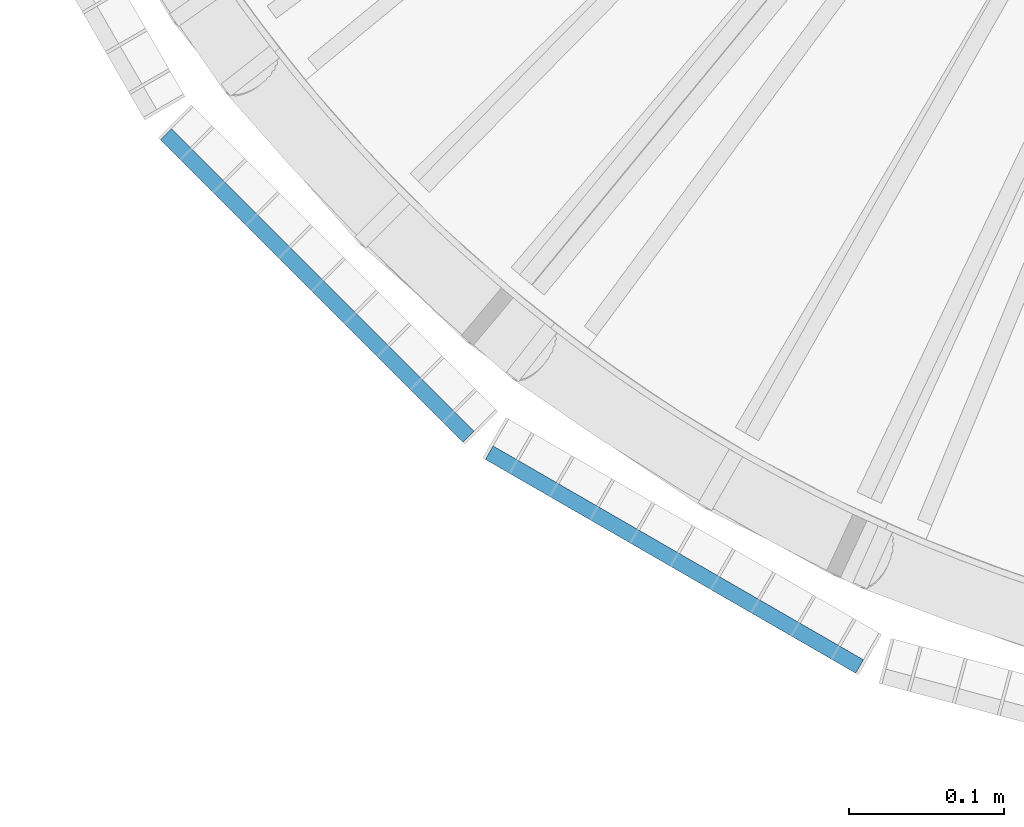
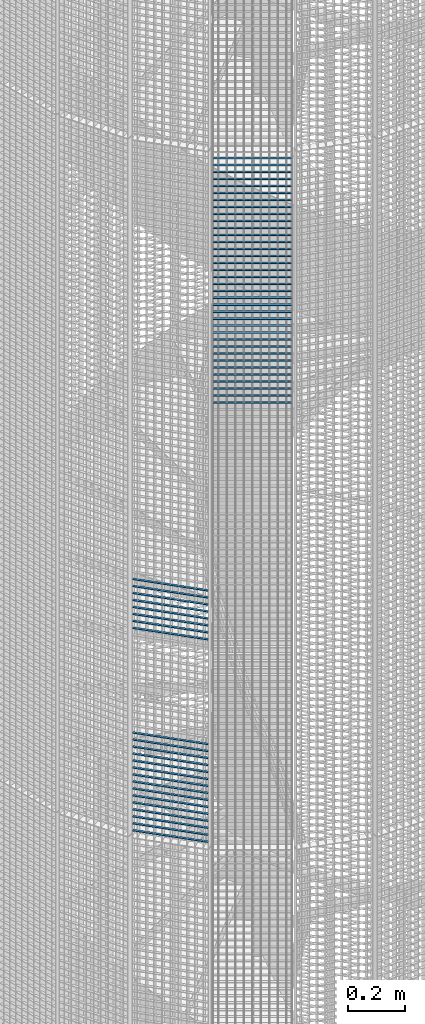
# One storey, part 375 of 1183: 59 beams, 2 elements without a shape of their own.
"""IFC2X3 building model written with IfcOpenShell, lengths in millimetres."""

from ifc_helpers import new_model, si_unit, frame, origin_with_axes, origin_2d_with_axis, place, context, subcontext, project, spatial, rectangle, extrude, material, type_object, element, aggregate, save


model = new_model("IFC2X3")

# Units and contexts
model_context = context("Model", 3, precision=1e-05, world=origin_with_axes())
body_context = subcontext(model_context, "Body", "Model", "MODEL_VIEW")
ifc_project = project(units=[si_unit("LENGTHUNIT", "METRE", prefix="MILLI"), si_unit("AREAUNIT", "SQUARE_METRE"), si_unit("VOLUMEUNIT", "CUBIC_METRE"), si_unit("MASSUNIT", "GRAM", prefix="KILO"), si_unit("TIMEUNIT", "SECOND"), si_unit("PLANEANGLEUNIT", "RADIAN"), si_unit("SOLIDANGLEUNIT", "STERADIAN"), si_unit("THERMODYNAMICTEMPERATUREUNIT", "DEGREE_CELSIUS"), si_unit("LUMINOUSINTENSITYUNIT", "LUMEN")], contexts=[model_context])

# Site, building, storey
site_placement = place(None, origin_with_axes())
site = spatial("IfcSite", under=ifc_project, at=site_placement, Name="Undefined", CompositionType="ELEMENT")
building_placement = place(site_placement, origin_with_axes())
building = spatial("IfcBuilding", under=site, at=building_placement, Name="Undefined", CompositionType="ELEMENT")
storey_placement = place(building_placement, origin_with_axes())
storey = spatial("IfcBuildingStorey", under=building, at=storey_placement, Name="Undefined", CompositionType="ELEMENT", Elevation=0.0)

# Assembly, beams
assembly_1_placement = place(storey_placement, origin_with_axes())
assembly_1 = element("IfcElementAssembly", 1, at=assembly_1_placement, inside=storey, Name="BORDURE", AssemblyPlace="NOTDEFINED", PredefinedType="NOTDEFINED")
ifc_material = material(Name="STEEL/S235JR")
beam_type = type_object("IfcBeamType", Name="PL2*10", PredefinedType="NOTDEFINED")
beam_1_placement = place(assembly_1_placement, frame((20910.2286510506, -884.927168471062, 3450.0), z_axis=(-0.70710678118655, -0.707106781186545, 0.0), x_axis=(-0.707106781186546, 0.707106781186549, 0.0)))
beam_1 = element("IfcBeam", 2, at=beam_1_placement, type_object=beam_type, material=ifc_material, Name="ENTRETOISE", context=body_context, shape_type="SweptSolid", body=[
    extrude(rectangle(XDim=2.0, YDim=10.0, at=origin_2d_with_axis()), frame((275.999999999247, 9.09494701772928e-13, 1.53210777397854e-14), z_axis=(-1.0, 0.0, 0.0), x_axis=(0.0, -1.0, 0.0)), (0.0, 0.0, 1.0), 276.0),
])
beam_2_placement = place(assembly_1_placement, frame((20910.2286510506, -884.927168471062, 3420.0), z_axis=(-0.70710678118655, -0.707106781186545, 0.0), x_axis=(-0.707106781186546, 0.707106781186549, 0.0)))
beam_2 = element("IfcBeam", 3, at=beam_2_placement, type_object=beam_type, material=ifc_material, Name="ENTRETOISE", context=body_context, shape_type="SweptSolid", body=[
    extrude(rectangle(XDim=2.0, YDim=10.0, at=origin_2d_with_axis()), frame((275.999999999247, 9.09494701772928e-13, 1.53210777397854e-14), z_axis=(-1.0, 0.0, 0.0), x_axis=(0.0, -1.0, 0.0)), (0.0, 0.0, 1.0), 276.0),
])
beam_3_placement = place(assembly_1_placement, frame((20910.2286510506, -884.927168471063, 3900.0), z_axis=(-0.70710678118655, -0.707106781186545, 0.0), x_axis=(-0.707106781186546, 0.707106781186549, 0.0)))
beam_3 = element("IfcBeam", 4, at=beam_3_placement, type_object=beam_type, material=ifc_material, Name="ENTRETOISE", context=body_context, shape_type="SweptSolid", body=[
    extrude(rectangle(XDim=2.0, YDim=10.0, at=origin_2d_with_axis()), frame((275.999999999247, 9.09494701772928e-13, 1.53210777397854e-14), z_axis=(-1.0, 0.0, 0.0), x_axis=(0.0, -1.0, 0.0)), (0.0, 0.0, 1.0), 276.0),
])
beam_4_placement = place(assembly_1_placement, frame((20910.2286510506, -884.927168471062, 3390.0), z_axis=(-0.70710678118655, -0.707106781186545, 0.0), x_axis=(-0.707106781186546, 0.707106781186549, 0.0)))
beam_4 = element("IfcBeam", 5, at=beam_4_placement, type_object=beam_type, material=ifc_material, Name="ENTRETOISE", context=body_context, shape_type="SweptSolid", body=[
    extrude(rectangle(XDim=2.0, YDim=10.0, at=origin_2d_with_axis()), frame((275.999999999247, 9.09494701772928e-13, 1.53210777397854e-14), z_axis=(-1.0, 0.0, 0.0), x_axis=(0.0, -1.0, 0.0)), (0.0, 0.0, 1.0), 276.0),
])
beam_5_placement = place(assembly_1_placement, frame((20910.2286510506, -884.927168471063, 3930.0), z_axis=(-0.70710678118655, -0.707106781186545, 0.0), x_axis=(-0.707106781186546, 0.707106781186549, 0.0)))
beam_5 = element("IfcBeam", 6, at=beam_5_placement, type_object=beam_type, material=ifc_material, Name="ENTRETOISE", context=body_context, shape_type="SweptSolid", body=[
    extrude(rectangle(XDim=2.0, YDim=10.0, at=origin_2d_with_axis()), frame((275.999999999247, 9.09494701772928e-13, 1.53210777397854e-14), z_axis=(-1.0, 0.0, 0.0), x_axis=(0.0, -1.0, 0.0)), (0.0, 0.0, 1.0), 276.0),
])
beam_6_placement = place(assembly_1_placement, frame((20910.2286510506, -884.927168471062, 3360.0), z_axis=(-0.70710678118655, -0.707106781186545, 0.0), x_axis=(-0.707106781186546, 0.707106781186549, 0.0)))
beam_6 = element("IfcBeam", 7, at=beam_6_placement, type_object=beam_type, material=ifc_material, Name="ENTRETOISE", context=body_context, shape_type="SweptSolid", body=[
    extrude(rectangle(XDim=2.0, YDim=10.0, at=origin_2d_with_axis()), frame((275.999999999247, 9.09494701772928e-13, 1.53210777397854e-14), z_axis=(-1.0, 0.0, 0.0), x_axis=(0.0, -1.0, 0.0)), (0.0, 0.0, 1.0), 276.0),
])
beam_7_placement = place(assembly_1_placement, frame((20910.2286510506, -884.927168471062, 3330.0), z_axis=(-0.70710678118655, -0.707106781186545, 0.0), x_axis=(-0.707106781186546, 0.707106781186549, 0.0)))
beam_7 = element("IfcBeam", 8, at=beam_7_placement, type_object=beam_type, material=ifc_material, Name="ENTRETOISE", context=body_context, shape_type="SweptSolid", body=[
    extrude(rectangle(XDim=2.0, YDim=10.0, at=origin_2d_with_axis()), frame((275.999999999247, 9.09494701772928e-13, 1.53210777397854e-14), z_axis=(-1.0, 0.0, 0.0), x_axis=(0.0, -1.0, 0.0)), (0.0, 0.0, 1.0), 276.0),
])
beam_8_placement = place(assembly_1_placement, frame((20910.2286510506, -884.927168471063, 3960.0), z_axis=(-0.70710678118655, -0.707106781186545, 0.0), x_axis=(-0.707106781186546, 0.707106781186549, 0.0)))
beam_8 = element("IfcBeam", 9, at=beam_8_placement, type_object=beam_type, material=ifc_material, Name="ENTRETOISE", context=body_context, shape_type="SweptSolid", body=[
    extrude(rectangle(XDim=2.0, YDim=10.0, at=origin_2d_with_axis()), frame((275.999999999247, 9.09494701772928e-13, 1.53210777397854e-14), z_axis=(-1.0, 0.0, 0.0), x_axis=(0.0, -1.0, 0.0)), (0.0, 0.0, 1.0), 276.0),
])
beam_9_placement = place(assembly_1_placement, frame((20910.2286510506, -884.927168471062, 3300.0), z_axis=(-0.70710678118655, -0.707106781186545, 0.0), x_axis=(-0.707106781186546, 0.707106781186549, 0.0)))
beam_9 = element("IfcBeam", 10, at=beam_9_placement, type_object=beam_type, material=ifc_material, Name="ENTRETOISE", context=body_context, shape_type="SweptSolid", body=[
    extrude(rectangle(XDim=2.0, YDim=10.0, at=origin_2d_with_axis()), frame((275.999999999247, 9.09494701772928e-13, 1.53210777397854e-14), z_axis=(-1.0, 0.0, 0.0), x_axis=(0.0, -1.0, 0.0)), (0.0, 0.0, 1.0), 276.0),
])
beam_10_placement = place(assembly_1_placement, frame((20910.2286510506, -884.927168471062, 3270.0), z_axis=(-0.70710678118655, -0.707106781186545, 0.0), x_axis=(-0.707106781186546, 0.707106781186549, 0.0)))
beam_10 = element("IfcBeam", 11, at=beam_10_placement, type_object=beam_type, material=ifc_material, Name="ENTRETOISE", context=body_context, shape_type="SweptSolid", body=[
    extrude(rectangle(XDim=2.0, YDim=10.0, at=origin_2d_with_axis()), frame((275.999999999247, 9.09494701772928e-13, 1.53210777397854e-14), z_axis=(-1.0, 0.0, 0.0), x_axis=(0.0, -1.0, 0.0)), (0.0, 0.0, 1.0), 276.0),
])
beam_11_placement = place(assembly_1_placement, frame((20910.2286510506, -884.927168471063, 3990.0), z_axis=(-0.70710678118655, -0.707106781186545, 0.0), x_axis=(-0.707106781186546, 0.707106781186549, 0.0)))
beam_11 = element("IfcBeam", 12, at=beam_11_placement, type_object=beam_type, material=ifc_material, Name="ENTRETOISE", context=body_context, shape_type="SweptSolid", body=[
    extrude(rectangle(XDim=2.0, YDim=10.0, at=origin_2d_with_axis()), frame((275.999999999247, 9.09494701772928e-13, 1.53210777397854e-14), z_axis=(-1.0, 0.0, 0.0), x_axis=(0.0, -1.0, 0.0)), (0.0, 0.0, 1.0), 276.0),
])
beam_12_placement = place(assembly_1_placement, frame((20910.2286510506, -884.927168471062, 3240.0), z_axis=(-0.70710678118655, -0.707106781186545, 0.0), x_axis=(-0.707106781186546, 0.707106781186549, 0.0)))
beam_12 = element("IfcBeam", 13, at=beam_12_placement, type_object=beam_type, material=ifc_material, Name="ENTRETOISE", context=body_context, shape_type="SweptSolid", body=[
    extrude(rectangle(XDim=2.0, YDim=10.0, at=origin_2d_with_axis()), frame((275.999999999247, 9.09494701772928e-13, 1.53210777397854e-14), z_axis=(-1.0, 0.0, 0.0), x_axis=(0.0, -1.0, 0.0)), (0.0, 0.0, 1.0), 276.0),
])
beam_13_placement = place(assembly_1_placement, frame((20910.2286510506, -884.927168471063, 4020.0), z_axis=(-0.70710678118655, -0.707106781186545, 0.0), x_axis=(-0.707106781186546, 0.707106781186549, 0.0)))
beam_13 = element("IfcBeam", 14, at=beam_13_placement, type_object=beam_type, material=ifc_material, Name="ENTRETOISE", context=body_context, shape_type="SweptSolid", body=[
    extrude(rectangle(XDim=2.0, YDim=10.0, at=origin_2d_with_axis()), frame((275.999999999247, 9.09494701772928e-13, 1.53210777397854e-14), z_axis=(-1.0, 0.0, 0.0), x_axis=(0.0, -1.0, 0.0)), (0.0, 0.0, 1.0), 276.0),
])
beam_14_placement = place(assembly_1_placement, frame((20910.2286510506, -884.927168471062, 3210.0), z_axis=(-0.70710678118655, -0.707106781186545, 0.0), x_axis=(-0.707106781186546, 0.707106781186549, 0.0)))
beam_14 = element("IfcBeam", 15, at=beam_14_placement, type_object=beam_type, material=ifc_material, Name="ENTRETOISE", context=body_context, shape_type="SweptSolid", body=[
    extrude(rectangle(XDim=2.0, YDim=10.0, at=origin_2d_with_axis()), frame((275.999999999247, 9.09494701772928e-13, 1.53210777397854e-14), z_axis=(-1.0, 0.0, 0.0), x_axis=(0.0, -1.0, 0.0)), (0.0, 0.0, 1.0), 276.0),
])
beam_15_placement = place(assembly_1_placement, frame((20910.2286510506, -884.927168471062, 3180.0), z_axis=(-0.70710678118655, -0.707106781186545, 0.0), x_axis=(-0.707106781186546, 0.707106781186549, 0.0)))
beam_15 = element("IfcBeam", 16, at=beam_15_placement, type_object=beam_type, material=ifc_material, Name="ENTRETOISE", context=body_context, shape_type="SweptSolid", body=[
    extrude(rectangle(XDim=2.0, YDim=10.0, at=origin_2d_with_axis()), frame((275.999999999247, 9.09494701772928e-13, 1.53210777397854e-14), z_axis=(-1.0, 0.0, 0.0), x_axis=(0.0, -1.0, 0.0)), (0.0, 0.0, 1.0), 276.0),
])
beam_16_placement = place(assembly_1_placement, frame((20910.2286510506, -884.927168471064, 4050.0), z_axis=(-0.70710678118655, -0.707106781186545, 0.0), x_axis=(-0.707106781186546, 0.707106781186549, 0.0)))
beam_16 = element("IfcBeam", 17, at=beam_16_placement, type_object=beam_type, material=ifc_material, Name="ENTRETOISE", context=body_context, shape_type="SweptSolid", body=[
    extrude(rectangle(XDim=2.0, YDim=10.0, at=origin_2d_with_axis()), frame((275.999999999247, 9.09494701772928e-13, 1.53210777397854e-14), z_axis=(-1.0, 0.0, 0.0), x_axis=(0.0, -1.0, 0.0)), (0.0, 0.0, 1.0), 276.0),
])
beam_17_placement = place(assembly_1_placement, frame((20910.2286510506, -884.927168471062, 3150.0), z_axis=(-0.70710678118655, -0.707106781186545, 0.0), x_axis=(-0.707106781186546, 0.707106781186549, 0.0)))
beam_17 = element("IfcBeam", 18, at=beam_17_placement, type_object=beam_type, material=ifc_material, Name="ENTRETOISE", context=body_context, shape_type="SweptSolid", body=[
    extrude(rectangle(XDim=2.0, YDim=10.0, at=origin_2d_with_axis()), frame((275.999999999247, 9.09494701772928e-13, 1.53210777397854e-14), z_axis=(-1.0, 0.0, 0.0), x_axis=(0.0, -1.0, 0.0)), (0.0, 0.0, 1.0), 276.0),
])
beam_18_placement = place(assembly_1_placement, frame((20910.2286510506, -884.927168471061, 3120.0), z_axis=(-0.70710678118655, -0.707106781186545, 0.0), x_axis=(-0.707106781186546, 0.707106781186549, 0.0)))
beam_18 = element("IfcBeam", 19, at=beam_18_placement, type_object=beam_type, material=ifc_material, Name="ENTRETOISE", context=body_context, shape_type="SweptSolid", body=[
    extrude(rectangle(XDim=2.0, YDim=10.0, at=origin_2d_with_axis()), frame((275.999999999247, 9.09494701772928e-13, 1.53210777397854e-14), z_axis=(-1.0, 0.0, 0.0), x_axis=(0.0, -1.0, 0.0)), (0.0, 0.0, 1.0), 276.0),
])
beam_19_placement = place(assembly_1_placement, frame((20910.2286510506, -884.927168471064, 4080.0), z_axis=(-0.70710678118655, -0.707106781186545, 0.0), x_axis=(-0.707106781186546, 0.707106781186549, 0.0)))
beam_19 = element("IfcBeam", 20, at=beam_19_placement, type_object=beam_type, material=ifc_material, Name="ENTRETOISE", context=body_context, shape_type="SweptSolid", body=[
    extrude(rectangle(XDim=2.0, YDim=10.0, at=origin_2d_with_axis()), frame((275.999999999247, 9.09494701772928e-13, 1.53210777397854e-14), z_axis=(-1.0, 0.0, 0.0), x_axis=(0.0, -1.0, 0.0)), (0.0, 0.0, 1.0), 276.0),
])
beam_20_placement = place(assembly_1_placement, frame((20910.2286510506, -884.927168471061, 3090.0), z_axis=(-0.70710678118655, -0.707106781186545, 0.0), x_axis=(-0.707106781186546, 0.707106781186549, 0.0)))
beam_20 = element("IfcBeam", 21, at=beam_20_placement, type_object=beam_type, material=ifc_material, Name="ENTRETOISE", context=body_context, shape_type="SweptSolid", body=[
    extrude(rectangle(XDim=2.0, YDim=10.0, at=origin_2d_with_axis()), frame((275.999999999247, 9.09494701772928e-13, 1.53210777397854e-14), z_axis=(-1.0, 0.0, 0.0), x_axis=(0.0, -1.0, 0.0)), (0.0, 0.0, 1.0), 276.0),
])
beam_21_placement = place(assembly_1_placement, frame((20910.2286510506, -884.927168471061, 3060.0), z_axis=(-0.70710678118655, -0.707106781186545, 0.0), x_axis=(-0.707106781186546, 0.707106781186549, 0.0)))
beam_21 = element("IfcBeam", 22, at=beam_21_placement, type_object=beam_type, material=ifc_material, Name="ENTRETOISE", context=body_context, shape_type="SweptSolid", body=[
    extrude(rectangle(XDim=2.0, YDim=10.0, at=origin_2d_with_axis()), frame((275.999999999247, 9.09494701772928e-13, 1.53210777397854e-14), z_axis=(-1.0, 0.0, 0.0), x_axis=(0.0, -1.0, 0.0)), (0.0, 0.0, 1.0), 276.0),
])
beam_22_placement = place(assembly_1_placement, frame((20910.2286510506, -884.927168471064, 4110.0), z_axis=(-0.70710678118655, -0.707106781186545, 0.0), x_axis=(-0.707106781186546, 0.707106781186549, 0.0)))
beam_22 = element("IfcBeam", 23, at=beam_22_placement, type_object=beam_type, material=ifc_material, Name="ENTRETOISE", context=body_context, shape_type="SweptSolid", body=[
    extrude(rectangle(XDim=2.0, YDim=10.0, at=origin_2d_with_axis()), frame((275.999999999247, 9.09494701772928e-13, 1.53210777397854e-14), z_axis=(-1.0, 0.0, 0.0), x_axis=(0.0, -1.0, 0.0)), (0.0, 0.0, 1.0), 276.0),
])
beam_23_placement = place(assembly_1_placement, frame((20910.2286510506, -884.92716847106, 3030.0), z_axis=(-0.70710678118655, -0.707106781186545, 0.0), x_axis=(-0.707106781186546, 0.707106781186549, 0.0)))
beam_23 = element("IfcBeam", 24, at=beam_23_placement, type_object=beam_type, material=ifc_material, Name="ENTRETOISE", context=body_context, shape_type="SweptSolid", body=[
    extrude(rectangle(XDim=2.0, YDim=10.0, at=origin_2d_with_axis()), frame((275.999999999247, 9.09494701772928e-13, 1.53210777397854e-14), z_axis=(-1.0, 0.0, 0.0), x_axis=(0.0, -1.0, 0.0)), (0.0, 0.0, 1.0), 276.0),
])
aggregate(assembly_1, [beam_1, beam_2, beam_3, beam_4, beam_5, beam_6, beam_7, beam_8, beam_9, beam_10, beam_11, beam_12, beam_13, beam_14, beam_15, beam_16, beam_17, beam_18, beam_19, beam_20, beam_21, beam_22, beam_23])

assembly_2_placement = place(storey_placement, origin_with_axes())
assembly_2 = element("IfcElementAssembly", 25, at=assembly_2_placement, inside=storey, Name="BORDURE", AssemblyPlace="NOTDEFINED", PredefinedType="NOTDEFINED")
beam_24_placement = place(assembly_2_placement, frame((21162.7680445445, -1033.29996828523, 5970.0), z_axis=(-0.49999999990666, -0.866025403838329, 0.0), x_axis=(-0.866025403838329, 0.499999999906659, 0.0)))
beam_24 = element("IfcBeam", 26, at=beam_24_placement, type_object=beam_type, material=ifc_material, Name="ENTRETOISE", context=body_context, shape_type="SweptSolid", body=[
    extrude(rectangle(XDim=2.0, YDim=10.0, at=origin_2d_with_axis()), frame((275.999999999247, 9.09494701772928e-13, 1.53210777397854e-14), z_axis=(-1.0, 0.0, 0.0), x_axis=(0.0, -1.0, 0.0)), (0.0, 0.0, 1.0), 276.0),
])
beam_25_placement = place(assembly_2_placement, frame((21162.7680445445, -1033.29996828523, 5940.0), z_axis=(-0.49999999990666, -0.866025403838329, 0.0), x_axis=(-0.866025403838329, 0.499999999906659, 0.0)))
beam_25 = element("IfcBeam", 27, at=beam_25_placement, type_object=beam_type, material=ifc_material, Name="ENTRETOISE", context=body_context, shape_type="SweptSolid", body=[
    extrude(rectangle(XDim=2.0, YDim=10.0, at=origin_2d_with_axis()), frame((275.999999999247, 9.09494701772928e-13, 1.53210777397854e-14), z_axis=(-1.0, 0.0, 0.0), x_axis=(0.0, -1.0, 0.0)), (0.0, 0.0, 1.0), 276.0),
])
beam_26_placement = place(assembly_2_placement, frame((21162.7680445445, -1033.29996828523, 5910.0), z_axis=(-0.49999999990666, -0.866025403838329, 0.0), x_axis=(-0.866025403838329, 0.499999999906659, 0.0)))
beam_26 = element("IfcBeam", 28, at=beam_26_placement, type_object=beam_type, material=ifc_material, Name="ENTRETOISE", context=body_context, shape_type="SweptSolid", body=[
    extrude(rectangle(XDim=2.0, YDim=10.0, at=origin_2d_with_axis()), frame((275.999999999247, 9.09494701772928e-13, 1.53210777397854e-14), z_axis=(-1.0, 0.0, 0.0), x_axis=(0.0, -1.0, 0.0)), (0.0, 0.0, 1.0), 276.0),
])
beam_27_placement = place(assembly_2_placement, frame((21162.7680445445, -1033.29996828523, 5880.0), z_axis=(-0.49999999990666, -0.866025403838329, 0.0), x_axis=(-0.866025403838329, 0.499999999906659, 0.0)))
beam_27 = element("IfcBeam", 29, at=beam_27_placement, type_object=beam_type, material=ifc_material, Name="ENTRETOISE", context=body_context, shape_type="SweptSolid", body=[
    extrude(rectangle(XDim=2.0, YDim=10.0, at=origin_2d_with_axis()), frame((275.999999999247, 9.09494701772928e-13, 1.53210777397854e-14), z_axis=(-1.0, 0.0, 0.0), x_axis=(0.0, -1.0, 0.0)), (0.0, 0.0, 1.0), 276.0),
])
beam_28_placement = place(assembly_2_placement, frame((21162.7680445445, -1033.29996828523, 5850.0), z_axis=(-0.49999999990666, -0.866025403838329, 0.0), x_axis=(-0.866025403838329, 0.499999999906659, 0.0)))
beam_28 = element("IfcBeam", 30, at=beam_28_placement, type_object=beam_type, material=ifc_material, Name="ENTRETOISE", context=body_context, shape_type="SweptSolid", body=[
    extrude(rectangle(XDim=2.0, YDim=10.0, at=origin_2d_with_axis()), frame((275.999999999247, 9.09494701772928e-13, 1.53210777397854e-14), z_axis=(-1.0, 0.0, 0.0), x_axis=(0.0, -1.0, 0.0)), (0.0, 0.0, 1.0), 276.0),
])
beam_29_placement = place(assembly_2_placement, frame((21162.7680445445, -1033.29996828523, 5820.0), z_axis=(-0.49999999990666, -0.866025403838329, 0.0), x_axis=(-0.866025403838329, 0.499999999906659, 0.0)))
beam_29 = element("IfcBeam", 31, at=beam_29_placement, type_object=beam_type, material=ifc_material, Name="ENTRETOISE", context=body_context, shape_type="SweptSolid", body=[
    extrude(rectangle(XDim=2.0, YDim=10.0, at=origin_2d_with_axis()), frame((275.999999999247, 9.09494701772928e-13, 1.53210777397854e-14), z_axis=(-1.0, 0.0, 0.0), x_axis=(0.0, -1.0, 0.0)), (0.0, 0.0, 1.0), 276.0),
])
beam_30_placement = place(assembly_2_placement, frame((21162.7680445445, -1033.29996828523, 5790.0), z_axis=(-0.49999999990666, -0.866025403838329, 0.0), x_axis=(-0.866025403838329, 0.499999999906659, 0.0)))
beam_30 = element("IfcBeam", 32, at=beam_30_placement, type_object=beam_type, material=ifc_material, Name="ENTRETOISE", context=body_context, shape_type="SweptSolid", body=[
    extrude(rectangle(XDim=2.0, YDim=10.0, at=origin_2d_with_axis()), frame((275.999999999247, 9.09494701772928e-13, 1.53210777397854e-14), z_axis=(-1.0, 0.0, 0.0), x_axis=(0.0, -1.0, 0.0)), (0.0, 0.0, 1.0), 276.0),
])
beam_31_placement = place(assembly_2_placement, frame((21162.7680445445, -1033.29996828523, 5760.0), z_axis=(-0.49999999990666, -0.866025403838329, 0.0), x_axis=(-0.866025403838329, 0.499999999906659, 0.0)))
beam_31 = element("IfcBeam", 33, at=beam_31_placement, type_object=beam_type, material=ifc_material, Name="ENTRETOISE", context=body_context, shape_type="SweptSolid", body=[
    extrude(rectangle(XDim=2.0, YDim=10.0, at=origin_2d_with_axis()), frame((275.999999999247, 9.09494701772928e-13, 1.53210777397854e-14), z_axis=(-1.0, 0.0, 0.0), x_axis=(0.0, -1.0, 0.0)), (0.0, 0.0, 1.0), 276.0),
])
beam_32_placement = place(assembly_2_placement, frame((21162.7680445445, -1033.29996828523, 5730.0), z_axis=(-0.49999999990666, -0.866025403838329, 0.0), x_axis=(-0.866025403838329, 0.499999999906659, 0.0)))
beam_32 = element("IfcBeam", 34, at=beam_32_placement, type_object=beam_type, material=ifc_material, Name="ENTRETOISE", context=body_context, shape_type="SweptSolid", body=[
    extrude(rectangle(XDim=2.0, YDim=10.0, at=origin_2d_with_axis()), frame((275.999999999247, 9.09494701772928e-13, 1.53210777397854e-14), z_axis=(-1.0, 0.0, 0.0), x_axis=(0.0, -1.0, 0.0)), (0.0, 0.0, 1.0), 276.0),
])
beam_33_placement = place(assembly_2_placement, frame((21162.7680445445, -1033.29996828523, 5700.0), z_axis=(-0.49999999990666, -0.866025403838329, 0.0), x_axis=(-0.866025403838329, 0.499999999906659, 0.0)))
beam_33 = element("IfcBeam", 35, at=beam_33_placement, type_object=beam_type, material=ifc_material, Name="ENTRETOISE", context=body_context, shape_type="SweptSolid", body=[
    extrude(rectangle(XDim=2.0, YDim=10.0, at=origin_2d_with_axis()), frame((275.999999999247, 9.09494701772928e-13, 1.53210777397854e-14), z_axis=(-1.0, 0.0, 0.0), x_axis=(0.0, -1.0, 0.0)), (0.0, 0.0, 1.0), 276.0),
])
beam_34_placement = place(assembly_2_placement, frame((21162.7680445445, -1033.29996828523, 5670.0), z_axis=(-0.49999999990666, -0.866025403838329, 0.0), x_axis=(-0.866025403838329, 0.499999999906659, 0.0)))
beam_34 = element("IfcBeam", 36, at=beam_34_placement, type_object=beam_type, material=ifc_material, Name="ENTRETOISE", context=body_context, shape_type="SweptSolid", body=[
    extrude(rectangle(XDim=2.0, YDim=10.0, at=origin_2d_with_axis()), frame((275.999999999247, 9.09494701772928e-13, 1.53210777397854e-14), z_axis=(-1.0, 0.0, 0.0), x_axis=(0.0, -1.0, 0.0)), (0.0, 0.0, 1.0), 276.0),
])
beam_35_placement = place(assembly_2_placement, frame((21162.7680445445, -1033.29996828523, 5640.0), z_axis=(-0.49999999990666, -0.866025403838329, 0.0), x_axis=(-0.866025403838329, 0.499999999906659, 0.0)))
beam_35 = element("IfcBeam", 37, at=beam_35_placement, type_object=beam_type, material=ifc_material, Name="ENTRETOISE", context=body_context, shape_type="SweptSolid", body=[
    extrude(rectangle(XDim=2.0, YDim=10.0, at=origin_2d_with_axis()), frame((275.999999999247, 9.09494701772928e-13, 1.53210777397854e-14), z_axis=(-1.0, 0.0, 0.0), x_axis=(0.0, -1.0, 0.0)), (0.0, 0.0, 1.0), 276.0),
])
beam_36_placement = place(assembly_2_placement, frame((21162.7680445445, -1033.29996828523, 5610.0), z_axis=(-0.49999999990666, -0.866025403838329, 0.0), x_axis=(-0.866025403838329, 0.499999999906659, 0.0)))
beam_36 = element("IfcBeam", 38, at=beam_36_placement, type_object=beam_type, material=ifc_material, Name="ENTRETOISE", context=body_context, shape_type="SweptSolid", body=[
    extrude(rectangle(XDim=2.0, YDim=10.0, at=origin_2d_with_axis()), frame((275.999999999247, 9.09494701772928e-13, 1.53210777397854e-14), z_axis=(-1.0, 0.0, 0.0), x_axis=(0.0, -1.0, 0.0)), (0.0, 0.0, 1.0), 276.0),
])
beam_37_placement = place(assembly_2_placement, frame((21162.7680445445, -1033.29996828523, 5580.0), z_axis=(-0.49999999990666, -0.866025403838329, 0.0), x_axis=(-0.866025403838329, 0.499999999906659, 0.0)))
beam_37 = element("IfcBeam", 39, at=beam_37_placement, type_object=beam_type, material=ifc_material, Name="ENTRETOISE", context=body_context, shape_type="SweptSolid", body=[
    extrude(rectangle(XDim=2.0, YDim=10.0, at=origin_2d_with_axis()), frame((275.999999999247, 9.09494701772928e-13, 1.53210777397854e-14), z_axis=(-1.0, 0.0, 0.0), x_axis=(0.0, -1.0, 0.0)), (0.0, 0.0, 1.0), 276.0),
])
beam_38_placement = place(assembly_2_placement, frame((21162.7680445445, -1033.29996828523, 5550.0), z_axis=(-0.49999999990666, -0.866025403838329, 0.0), x_axis=(-0.866025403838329, 0.499999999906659, 0.0)))
beam_38 = element("IfcBeam", 40, at=beam_38_placement, type_object=beam_type, material=ifc_material, Name="ENTRETOISE", context=body_context, shape_type="SweptSolid", body=[
    extrude(rectangle(XDim=2.0, YDim=10.0, at=origin_2d_with_axis()), frame((275.999999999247, 9.09494701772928e-13, 1.53210777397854e-14), z_axis=(-1.0, 0.0, 0.0), x_axis=(0.0, -1.0, 0.0)), (0.0, 0.0, 1.0), 276.0),
])
beam_39_placement = place(assembly_2_placement, frame((21162.7680445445, -1033.29996828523, 5520.0), z_axis=(-0.49999999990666, -0.866025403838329, 0.0), x_axis=(-0.866025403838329, 0.499999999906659, 0.0)))
beam_39 = element("IfcBeam", 41, at=beam_39_placement, type_object=beam_type, material=ifc_material, Name="ENTRETOISE", context=body_context, shape_type="SweptSolid", body=[
    extrude(rectangle(XDim=2.0, YDim=10.0, at=origin_2d_with_axis()), frame((275.999999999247, 9.09494701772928e-13, 1.53210777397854e-14), z_axis=(-1.0, 0.0, 0.0), x_axis=(0.0, -1.0, 0.0)), (0.0, 0.0, 1.0), 276.0),
])
beam_40_placement = place(assembly_2_placement, frame((21162.7680445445, -1033.29996828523, 5490.0), z_axis=(-0.49999999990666, -0.866025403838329, 0.0), x_axis=(-0.866025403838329, 0.499999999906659, 0.0)))
beam_40 = element("IfcBeam", 42, at=beam_40_placement, type_object=beam_type, material=ifc_material, Name="ENTRETOISE", context=body_context, shape_type="SweptSolid", body=[
    extrude(rectangle(XDim=2.0, YDim=10.0, at=origin_2d_with_axis()), frame((275.999999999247, 9.09494701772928e-13, 1.53210777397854e-14), z_axis=(-1.0, 0.0, 0.0), x_axis=(0.0, -1.0, 0.0)), (0.0, 0.0, 1.0), 276.0),
])
beam_41_placement = place(assembly_2_placement, frame((21162.7680445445, -1033.29996828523, 5460.0), z_axis=(-0.49999999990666, -0.866025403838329, 0.0), x_axis=(-0.866025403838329, 0.499999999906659, 0.0)))
beam_41 = element("IfcBeam", 43, at=beam_41_placement, type_object=beam_type, material=ifc_material, Name="ENTRETOISE", context=body_context, shape_type="SweptSolid", body=[
    extrude(rectangle(XDim=2.0, YDim=10.0, at=origin_2d_with_axis()), frame((275.999999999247, 9.09494701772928e-13, 1.53210777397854e-14), z_axis=(-1.0, 0.0, 0.0), x_axis=(0.0, -1.0, 0.0)), (0.0, 0.0, 1.0), 276.0),
])
beam_42_placement = place(assembly_2_placement, frame((21162.7680445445, -1033.29996828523, 5430.0), z_axis=(-0.49999999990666, -0.866025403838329, 0.0), x_axis=(-0.866025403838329, 0.499999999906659, 0.0)))
beam_42 = element("IfcBeam", 44, at=beam_42_placement, type_object=beam_type, material=ifc_material, Name="ENTRETOISE", context=body_context, shape_type="SweptSolid", body=[
    extrude(rectangle(XDim=2.0, YDim=10.0, at=origin_2d_with_axis()), frame((275.999999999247, 9.09494701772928e-13, 1.53210777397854e-14), z_axis=(-1.0, 0.0, 0.0), x_axis=(0.0, -1.0, 0.0)), (0.0, 0.0, 1.0), 276.0),
])
beam_43_placement = place(assembly_2_placement, frame((21162.7680445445, -1033.29996828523, 5400.0), z_axis=(-0.49999999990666, -0.866025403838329, 0.0), x_axis=(-0.866025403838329, 0.499999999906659, 0.0)))
beam_43 = element("IfcBeam", 45, at=beam_43_placement, type_object=beam_type, material=ifc_material, Name="ENTRETOISE", context=body_context, shape_type="SweptSolid", body=[
    extrude(rectangle(XDim=2.0, YDim=10.0, at=origin_2d_with_axis()), frame((275.999999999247, 9.09494701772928e-13, 1.53210777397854e-14), z_axis=(-1.0, 0.0, 0.0), x_axis=(0.0, -1.0, 0.0)), (0.0, 0.0, 1.0), 276.0),
])
beam_44_placement = place(assembly_2_placement, frame((21162.7680445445, -1033.29996828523, 5370.0), z_axis=(-0.49999999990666, -0.866025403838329, 0.0), x_axis=(-0.866025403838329, 0.499999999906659, 0.0)))
beam_44 = element("IfcBeam", 46, at=beam_44_placement, type_object=beam_type, material=ifc_material, Name="ENTRETOISE", context=body_context, shape_type="SweptSolid", body=[
    extrude(rectangle(XDim=2.0, YDim=10.0, at=origin_2d_with_axis()), frame((275.999999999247, 9.09494701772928e-13, 1.53210777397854e-14), z_axis=(-1.0, 0.0, 0.0), x_axis=(0.0, -1.0, 0.0)), (0.0, 0.0, 1.0), 276.0),
])
beam_45_placement = place(assembly_2_placement, frame((21162.7680445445, -1033.29996828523, 5340.0), z_axis=(-0.49999999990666, -0.866025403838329, 0.0), x_axis=(-0.866025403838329, 0.499999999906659, 0.0)))
beam_45 = element("IfcBeam", 47, at=beam_45_placement, type_object=beam_type, material=ifc_material, Name="ENTRETOISE", context=body_context, shape_type="SweptSolid", body=[
    extrude(rectangle(XDim=2.0, YDim=10.0, at=origin_2d_with_axis()), frame((275.999999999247, 9.09494701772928e-13, 1.53210777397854e-14), z_axis=(-1.0, 0.0, 0.0), x_axis=(0.0, -1.0, 0.0)), (0.0, 0.0, 1.0), 276.0),
])
beam_46_placement = place(assembly_2_placement, frame((21162.7680445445, -1033.29996828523, 5310.0), z_axis=(-0.49999999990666, -0.866025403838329, 0.0), x_axis=(-0.866025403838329, 0.499999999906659, 0.0)))
beam_46 = element("IfcBeam", 48, at=beam_46_placement, type_object=beam_type, material=ifc_material, Name="ENTRETOISE", context=body_context, shape_type="SweptSolid", body=[
    extrude(rectangle(XDim=2.0, YDim=10.0, at=origin_2d_with_axis()), frame((275.999999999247, 9.09494701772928e-13, 1.53210777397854e-14), z_axis=(-1.0, 0.0, 0.0), x_axis=(0.0, -1.0, 0.0)), (0.0, 0.0, 1.0), 276.0),
])
beam_47_placement = place(assembly_2_placement, frame((21162.7680445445, -1033.29996828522, 5280.0), z_axis=(-0.49999999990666, -0.866025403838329, 0.0), x_axis=(-0.866025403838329, 0.499999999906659, 0.0)))
beam_47 = element("IfcBeam", 49, at=beam_47_placement, type_object=beam_type, material=ifc_material, Name="ENTRETOISE", context=body_context, shape_type="SweptSolid", body=[
    extrude(rectangle(XDim=2.0, YDim=10.0, at=origin_2d_with_axis()), frame((275.999999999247, 9.09494701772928e-13, 1.53210777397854e-14), z_axis=(-1.0, 0.0, 0.0), x_axis=(0.0, -1.0, 0.0)), (0.0, 0.0, 1.0), 276.0),
])
beam_48_placement = place(assembly_2_placement, frame((21162.7680445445, -1033.29996828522, 5250.0), z_axis=(-0.49999999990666, -0.866025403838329, 0.0), x_axis=(-0.866025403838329, 0.499999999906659, 0.0)))
beam_48 = element("IfcBeam", 50, at=beam_48_placement, type_object=beam_type, material=ifc_material, Name="ENTRETOISE", context=body_context, shape_type="SweptSolid", body=[
    extrude(rectangle(XDim=2.0, YDim=10.0, at=origin_2d_with_axis()), frame((275.999999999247, 9.09494701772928e-13, 1.53210777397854e-14), z_axis=(-1.0, 0.0, 0.0), x_axis=(0.0, -1.0, 0.0)), (0.0, 0.0, 1.0), 276.0),
])
beam_49_placement = place(assembly_2_placement, frame((21162.7680445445, -1033.29996828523, 5220.0), z_axis=(-0.49999999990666, -0.866025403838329, 0.0), x_axis=(-0.866025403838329, 0.499999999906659, 0.0)))
beam_49 = element("IfcBeam", 51, at=beam_49_placement, type_object=beam_type, material=ifc_material, Name="ENTRETOISE", context=body_context, shape_type="SweptSolid", body=[
    extrude(rectangle(XDim=2.0, YDim=10.0, at=origin_2d_with_axis()), frame((275.999999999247, 9.09494701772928e-13, 1.53210777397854e-14), z_axis=(-1.0, 0.0, 0.0), x_axis=(0.0, -1.0, 0.0)), (0.0, 0.0, 1.0), 276.0),
])
beam_50_placement = place(assembly_2_placement, frame((21162.7680445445, -1033.29996828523, 5190.0), z_axis=(-0.49999999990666, -0.866025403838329, 0.0), x_axis=(-0.866025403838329, 0.499999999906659, 0.0)))
beam_50 = element("IfcBeam", 52, at=beam_50_placement, type_object=beam_type, material=ifc_material, Name="ENTRETOISE", context=body_context, shape_type="SweptSolid", body=[
    extrude(rectangle(XDim=2.0, YDim=10.0, at=origin_2d_with_axis()), frame((275.999999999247, 9.09494701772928e-13, 1.53210777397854e-14), z_axis=(-1.0, 0.0, 0.0), x_axis=(0.0, -1.0, 0.0)), (0.0, 0.0, 1.0), 276.0),
])
beam_51_placement = place(assembly_2_placement, frame((21162.7680445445, -1033.29996828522, 5160.0), z_axis=(-0.49999999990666, -0.866025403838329, 0.0), x_axis=(-0.866025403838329, 0.499999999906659, 0.0)))
beam_51 = element("IfcBeam", 53, at=beam_51_placement, type_object=beam_type, material=ifc_material, Name="ENTRETOISE", context=body_context, shape_type="SweptSolid", body=[
    extrude(rectangle(XDim=2.0, YDim=10.0, at=origin_2d_with_axis()), frame((275.999999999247, 9.09494701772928e-13, 1.53210777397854e-14), z_axis=(-1.0, 0.0, 0.0), x_axis=(0.0, -1.0, 0.0)), (0.0, 0.0, 1.0), 276.0),
])
beam_52_placement = place(assembly_2_placement, frame((21162.7680445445, -1033.29996828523, 5130.0), z_axis=(-0.49999999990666, -0.866025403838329, 0.0), x_axis=(-0.866025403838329, 0.499999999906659, 0.0)))
beam_52 = element("IfcBeam", 54, at=beam_52_placement, type_object=beam_type, material=ifc_material, Name="ENTRETOISE", context=body_context, shape_type="SweptSolid", body=[
    extrude(rectangle(XDim=2.0, YDim=10.0, at=origin_2d_with_axis()), frame((275.999999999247, 9.09494701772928e-13, 1.53210777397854e-14), z_axis=(-1.0, 0.0, 0.0), x_axis=(0.0, -1.0, 0.0)), (0.0, 0.0, 1.0), 276.0),
])
beam_53_placement = place(assembly_2_placement, frame((21162.7680445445, -1033.29996828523, 5100.0), z_axis=(-0.49999999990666, -0.866025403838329, 0.0), x_axis=(-0.866025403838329, 0.499999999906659, 0.0)))
beam_53 = element("IfcBeam", 55, at=beam_53_placement, type_object=beam_type, material=ifc_material, Name="ENTRETOISE", context=body_context, shape_type="SweptSolid", body=[
    extrude(rectangle(XDim=2.0, YDim=10.0, at=origin_2d_with_axis()), frame((275.999999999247, 9.09494701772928e-13, 1.53210777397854e-14), z_axis=(-1.0, 0.0, 0.0), x_axis=(0.0, -1.0, 0.0)), (0.0, 0.0, 1.0), 276.0),
])
beam_54_placement = place(assembly_2_placement, frame((21162.7680445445, -1033.29996828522, 5070.0), z_axis=(-0.49999999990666, -0.866025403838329, 0.0), x_axis=(-0.866025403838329, 0.499999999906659, 0.0)))
beam_54 = element("IfcBeam", 56, at=beam_54_placement, type_object=beam_type, material=ifc_material, Name="ENTRETOISE", context=body_context, shape_type="SweptSolid", body=[
    extrude(rectangle(XDim=2.0, YDim=10.0, at=origin_2d_with_axis()), frame((275.999999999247, 9.09494701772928e-13, 1.53210777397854e-14), z_axis=(-1.0, 0.0, 0.0), x_axis=(0.0, -1.0, 0.0)), (0.0, 0.0, 1.0), 276.0),
])
beam_55_placement = place(assembly_2_placement, frame((21162.7680445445, -1033.29996828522, 5040.0), z_axis=(-0.49999999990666, -0.866025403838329, 0.0), x_axis=(-0.866025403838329, 0.499999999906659, 0.0)))
beam_55 = element("IfcBeam", 57, at=beam_55_placement, type_object=beam_type, material=ifc_material, Name="ENTRETOISE", context=body_context, shape_type="SweptSolid", body=[
    extrude(rectangle(XDim=2.0, YDim=10.0, at=origin_2d_with_axis()), frame((275.999999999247, 9.09494701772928e-13, 1.53210777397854e-14), z_axis=(-1.0, 0.0, 0.0), x_axis=(0.0, -1.0, 0.0)), (0.0, 0.0, 1.0), 276.0),
])
beam_56_placement = place(assembly_2_placement, frame((21162.7680445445, -1033.29996828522, 5010.0), z_axis=(-0.49999999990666, -0.866025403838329, 0.0), x_axis=(-0.866025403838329, 0.499999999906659, 0.0)))
beam_56 = element("IfcBeam", 58, at=beam_56_placement, type_object=beam_type, material=ifc_material, Name="ENTRETOISE", context=body_context, shape_type="SweptSolid", body=[
    extrude(rectangle(XDim=2.0, YDim=10.0, at=origin_2d_with_axis()), frame((275.999999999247, 9.09494701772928e-13, 1.53210777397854e-14), z_axis=(-1.0, 0.0, 0.0), x_axis=(0.0, -1.0, 0.0)), (0.0, 0.0, 1.0), 276.0),
])
beam_57_placement = place(assembly_2_placement, frame((21162.7680445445, -1033.29996828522, 4980.0), z_axis=(-0.49999999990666, -0.866025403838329, 0.0), x_axis=(-0.866025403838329, 0.499999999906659, 0.0)))
beam_57 = element("IfcBeam", 59, at=beam_57_placement, type_object=beam_type, material=ifc_material, Name="ENTRETOISE", context=body_context, shape_type="SweptSolid", body=[
    extrude(rectangle(XDim=2.0, YDim=10.0, at=origin_2d_with_axis()), frame((275.999999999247, 9.09494701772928e-13, 1.53210777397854e-14), z_axis=(-1.0, 0.0, 0.0), x_axis=(0.0, -1.0, 0.0)), (0.0, 0.0, 1.0), 276.0),
])
beam_58_placement = place(assembly_2_placement, frame((21162.7680445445, -1033.29996828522, 4950.0), z_axis=(-0.49999999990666, -0.866025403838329, 0.0), x_axis=(-0.866025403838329, 0.499999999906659, 0.0)))
beam_58 = element("IfcBeam", 60, at=beam_58_placement, type_object=beam_type, material=ifc_material, Name="ENTRETOISE", context=body_context, shape_type="SweptSolid", body=[
    extrude(rectangle(XDim=2.0, YDim=10.0, at=origin_2d_with_axis()), frame((275.999999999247, 9.09494701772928e-13, 1.53210777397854e-14), z_axis=(-1.0, 0.0, 0.0), x_axis=(0.0, -1.0, 0.0)), (0.0, 0.0, 1.0), 276.0),
])
beam_59_placement = place(assembly_2_placement, frame((21162.7680445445, -1033.29996828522, 4920.0), z_axis=(-0.49999999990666, -0.866025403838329, 0.0), x_axis=(-0.866025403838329, 0.499999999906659, 0.0)))
beam_59 = element("IfcBeam", 61, at=beam_59_placement, type_object=beam_type, material=ifc_material, Name="ENTRETOISE", context=body_context, shape_type="SweptSolid", body=[
    extrude(rectangle(XDim=2.0, YDim=10.0, at=origin_2d_with_axis()), frame((275.999999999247, 9.09494701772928e-13, 1.53210777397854e-14), z_axis=(-1.0, 0.0, 0.0), x_axis=(0.0, -1.0, 0.0)), (0.0, 0.0, 1.0), 276.0),
])
aggregate(assembly_2, [beam_24, beam_25, beam_26, beam_27, beam_28, beam_29, beam_30, beam_31, beam_32, beam_33, beam_34, beam_35, beam_36, beam_37, beam_38, beam_39, beam_40, beam_41, beam_42, beam_43, beam_44, beam_45, beam_46, beam_47, beam_48, beam_49, beam_50, beam_51, beam_52, beam_53, beam_54, beam_55, beam_56, beam_57, beam_58, beam_59])

save(model, "model.ifc")
